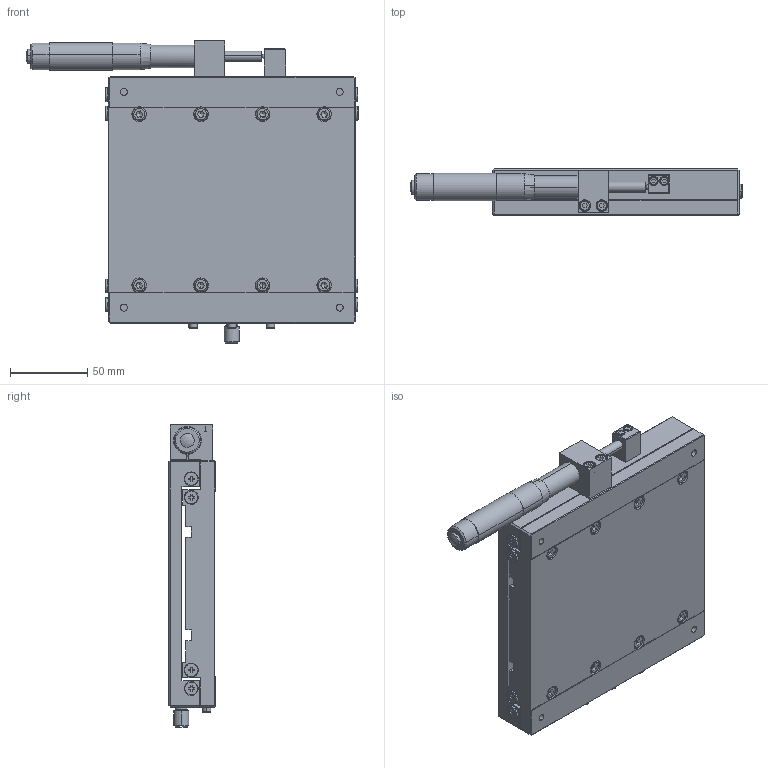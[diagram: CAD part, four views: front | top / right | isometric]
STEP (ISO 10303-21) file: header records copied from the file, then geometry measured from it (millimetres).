
FILE_DESCRIPTION (( 'STEP AP203' ), '1' );
FILE_NAME ('MX160-R.STEP', '2026-04-09T01:48:07', ( '' ), ( '' ), 'SwSTEP 2.0', 'SolidWorks 2021', '' );
FILE_SCHEMA (( 'CONFIG_CONTROL_DESIGN' ));
Length unit declared in the file: millimetre
Products named in the file (4): L160R-2; MX160-R; L160R-1; MT50-1-1_1
Assembly tree (3 placements, depth 2):
  MX160-R
    MT50-1-1_1
    L160R-2
    L160R-1
Bounding box: 215.4 x 30 x 196 mm (x, y, z)
Volume: 730775.3 mm3; surface area: 161768 mm2
Topology: 3 solids, 8 shells, 891 faces, 2208 edges, 1391 vertices
Faces by surface type: plane 532, cylinder 227, torus 80, cone 50, sphere 2
Entity records: 27218 total; most frequent: CARTESIAN_POINT 5068, DIRECTION 4738, ORIENTED_EDGE 4340, EDGE_CURVE 2170, AXIS2_PLACEMENT_3D 1692, VERTEX_POINT 1388, VECTOR 1354, LINE 1354
